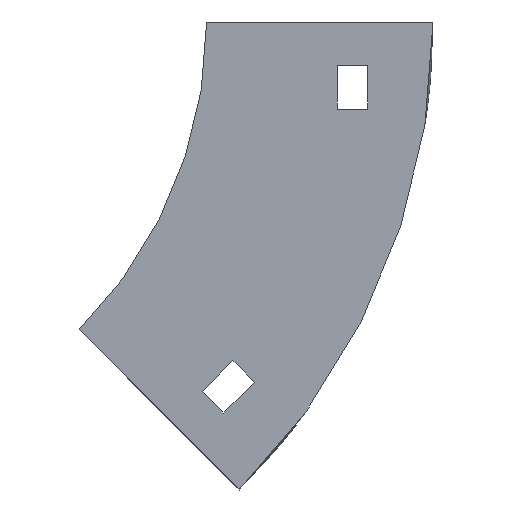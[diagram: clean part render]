
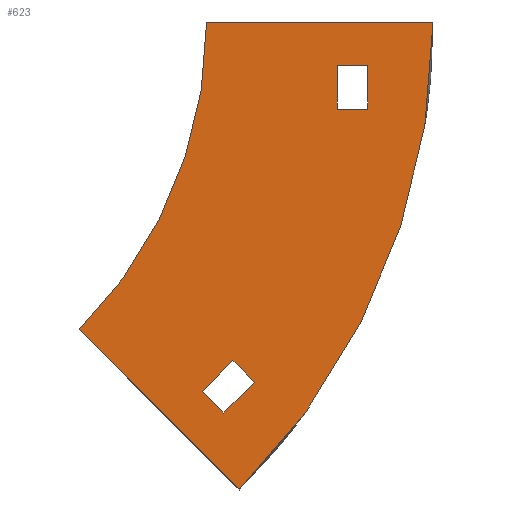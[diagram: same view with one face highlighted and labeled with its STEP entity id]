
A CAD part, left-side view. The second image highlights one B-rep face of the part: STEP entity #623.
In plain terms, the highlighted planar face has unit normal (-1, 0, 0).
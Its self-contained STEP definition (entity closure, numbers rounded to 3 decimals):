
#2 = CARTESIAN_POINT ( 'NONE',  ( -152., 1.005, -84.853 ) ) ;
#6 = LINE ( 'NONE', #536, #37 ) ;
#10 = AXIS2_PLACEMENT_3D ( 'NONE', #786, #561, #102 ) ;
#29 = AXIS2_PLACEMENT_3D ( 'NONE', #857, #329, #54 ) ;
#37 = VECTOR ( 'NONE', #173, 1000. ) ;
#50 = CARTESIAN_POINT ( 'NONE',  ( -152., -52., 0. ) ) ;
#54 = DIRECTION ( 'NONE',  ( 0., 0., -1. ) ) ;
#61 = FACE_OUTER_BOUND ( 'NONE', #1124, .T. ) ;
#70 = VECTOR ( 'NONE', #540, 1000. ) ;
#80 = LINE ( 'NONE', #984, #534 ) ;
#90 = LINE ( 'NONE', #96, #70 ) ;
#94 = ORIENTED_EDGE ( 'NONE', *, *, #503, .T. ) ;
#96 = CARTESIAN_POINT ( 'NONE',  ( -152., -6.066, -77.782 ) ) ;
#102 = DIRECTION ( 'NONE',  ( 0., 0., -1. ) ) ;
#104 = VECTOR ( 'NONE', #311, 1000. ) ;
#116 = LINE ( 'NONE', #827, #104 ) ;
#118 = CARTESIAN_POINT ( 'NONE',  ( -152., -7.48, -107.48 ) ) ;
#169 = CARTESIAN_POINT ( 'NONE',  ( -152., 29.289, -70.711 ) ) ;
#173 = DIRECTION ( 'NONE',  ( 0., 0., -1. ) ) ;
#175 = CARTESIAN_POINT ( 'NONE',  ( -152., 100., 0. ) ) ;
#179 = LINE ( 'NONE', #2, #702 ) ;
#202 = VERTEX_POINT ( 'NONE', #379 ) ;
#211 = EDGE_CURVE ( 'NONE', #337, #763, #528, .T. ) ;
#227 = EDGE_CURVE ( 'NONE', #880, #202, #179, .T. ) ;
#237 = CARTESIAN_POINT ( 'NONE',  ( -152., -30., -10. ) ) ;
#244 = VERTEX_POINT ( 'NONE', #1074 ) ;
#250 = ORIENTED_EDGE ( 'NONE', *, *, #227, .F. ) ;
#251 = CARTESIAN_POINT ( 'NONE',  ( -152., -37., -20. ) ) ;
#276 = CARTESIAN_POINT ( 'NONE',  ( -152., -52., 0. ) ) ;
#280 = EDGE_LOOP ( 'NONE', ( #94, #358, #678, #960 ) ) ;
#286 = ORIENTED_EDGE ( 'NONE', *, *, #576, .F. ) ;
#311 = DIRECTION ( 'NONE',  ( 0., 1., 0. ) ) ;
#313 = DIRECTION ( 'NONE',  ( 0., -1., 0. ) ) ;
#319 = VECTOR ( 'NONE', #460, 1000. ) ;
#329 = DIRECTION ( 'NONE',  ( -1., 0., 0. ) ) ;
#337 = VERTEX_POINT ( 'NONE', #276 ) ;
#355 = DIRECTION ( 'NONE',  ( 0., 0.707, -0.707 ) ) ;
#358 = ORIENTED_EDGE ( 'NONE', *, *, #772, .T. ) ;
#379 = CARTESIAN_POINT ( 'NONE',  ( -152., 1.005, -84.853 ) ) ;
#389 = VERTEX_POINT ( 'NONE', #653 ) ;
#413 = VECTOR ( 'NONE', #861, 1000. ) ;
#421 = EDGE_CURVE ( 'NONE', #889, #553, #116, .T. ) ;
#427 = CARTESIAN_POINT ( 'NONE',  ( -152., -6.066, -77.782 ) ) ;
#430 = CIRCLE ( 'NONE', #29, 100. ) ;
#450 = DIRECTION ( 'NONE',  ( 0., 0., -1. ) ) ;
#460 = DIRECTION ( 'NONE',  ( 0., 0., 1. ) ) ;
#463 = DIRECTION ( 'NONE',  ( 0., 0.707, 0.707 ) ) ;
#480 = CARTESIAN_POINT ( 'NONE',  ( -152., -30., -10. ) ) ;
#494 = EDGE_CURVE ( 'NONE', #586, #923, #430, .T. ) ;
#503 = EDGE_CURVE ( 'NONE', #553, #389, #1122, .T. ) ;
#517 = LINE ( 'NONE', #955, #413 ) ;
#523 = ORIENTED_EDGE ( 'NONE', *, *, #1002, .F. ) ;
#528 = CIRCLE ( 'NONE', #10, 152. ) ;
#534 = VECTOR ( 'NONE', #784, 1000. ) ;
#536 = CARTESIAN_POINT ( 'NONE',  ( -152., -37., -10. ) ) ;
#540 = DIRECTION ( 'NONE',  ( 0., 0.707, 0.707 ) ) ;
#542 = FACE_BOUND ( 'NONE', #564, .T. ) ;
#553 = VERTEX_POINT ( 'NONE', #926 ) ;
#561 = DIRECTION ( 'NONE',  ( 1., 0., 0. ) ) ;
#564 = EDGE_LOOP ( 'NONE', ( #839, #250, #1064, #523 ) ) ;
#576 = EDGE_CURVE ( 'NONE', #923, #337, #750, .T. ) ;
#586 = VERTEX_POINT ( 'NONE', #169 ) ;
#611 = EDGE_CURVE ( 'NONE', #202, #1078, #517, .T. ) ;
#613 = VECTOR ( 'NONE', #1102, 1000. ) ;
#623 = ADVANCED_FACE ( 'NONE', ( #61, #1133, #542 ), #706, .F. ) ;
#634 = CARTESIAN_POINT ( 'NONE',  ( -152., -3.945, -89.803 ) ) ;
#641 = ORIENTED_EDGE ( 'NONE', *, *, #494, .F. ) ;
#653 = CARTESIAN_POINT ( 'NONE',  ( -152., -30., -10. ) ) ;
#656 = LINE ( 'NONE', #480, #971 ) ;
#657 = VERTEX_POINT ( 'NONE', #722 ) ;
#658 = VECTOR ( 'NONE', #463, 1000. ) ;
#678 = ORIENTED_EDGE ( 'NONE', *, *, #1068, .T. ) ;
#702 = VECTOR ( 'NONE', #355, 1000. ) ;
#706 = PLANE ( 'NONE',  #740 ) ;
#722 = CARTESIAN_POINT ( 'NONE',  ( -152., -11.016, -82.731 ) ) ;
#740 = AXIS2_PLACEMENT_3D ( 'NONE', #175, #1059, #450 ) ;
#748 = ORIENTED_EDGE ( 'NONE', *, *, #1135, .F. ) ;
#750 = LINE ( 'NONE', #50, #613 ) ;
#763 = VERTEX_POINT ( 'NONE', #118 ) ;
#772 = EDGE_CURVE ( 'NONE', #389, #244, #656, .T. ) ;
#784 = DIRECTION ( 'NONE',  ( 0., -0.707, 0.707 ) ) ;
#786 = CARTESIAN_POINT ( 'NONE',  ( -152., 100., 0. ) ) ;
#827 = CARTESIAN_POINT ( 'NONE',  ( -152., -30., -20. ) ) ;
#839 = ORIENTED_EDGE ( 'NONE', *, *, #611, .F. ) ;
#857 = CARTESIAN_POINT ( 'NONE',  ( -152., 100., 0. ) ) ;
#861 = DIRECTION ( 'NONE',  ( 0., -0.707, -0.707 ) ) ;
#871 = CARTESIAN_POINT ( 'NONE',  ( -152., 0., 0. ) ) ;
#880 = VERTEX_POINT ( 'NONE', #427 ) ;
#889 = VERTEX_POINT ( 'NONE', #251 ) ;
#923 = VERTEX_POINT ( 'NONE', #871 ) ;
#926 = CARTESIAN_POINT ( 'NONE',  ( -152., -30., -20. ) ) ;
#955 = CARTESIAN_POINT ( 'NONE',  ( -152., 1.005, -84.853 ) ) ;
#956 = ORIENTED_EDGE ( 'NONE', *, *, #211, .F. ) ;
#960 = ORIENTED_EDGE ( 'NONE', *, *, #421, .T. ) ;
#971 = VECTOR ( 'NONE', #313, 1000. ) ;
#984 = CARTESIAN_POINT ( 'NONE',  ( -152., -3.945, -89.803 ) ) ;
#1002 = EDGE_CURVE ( 'NONE', #1078, #657, #80, .T. ) ;
#1011 = CARTESIAN_POINT ( 'NONE',  ( -152., 29.289, -70.711 ) ) ;
#1059 = DIRECTION ( 'NONE',  ( 1., 0., 0. ) ) ;
#1064 = ORIENTED_EDGE ( 'NONE', *, *, #1103, .F. ) ;
#1068 = EDGE_CURVE ( 'NONE', #244, #889, #6, .T. ) ;
#1074 = CARTESIAN_POINT ( 'NONE',  ( -152., -37., -10. ) ) ;
#1078 = VERTEX_POINT ( 'NONE', #634 ) ;
#1090 = LINE ( 'NONE', #1011, #658 ) ;
#1102 = DIRECTION ( 'NONE',  ( 0., -1., 0. ) ) ;
#1103 = EDGE_CURVE ( 'NONE', #657, #880, #90, .T. ) ;
#1122 = LINE ( 'NONE', #237, #319 ) ;
#1124 = EDGE_LOOP ( 'NONE', ( #641, #748, #956, #286 ) ) ;
#1133 = FACE_BOUND ( 'NONE', #280, .T. ) ;
#1135 = EDGE_CURVE ( 'NONE', #763, #586, #1090, .T. ) ;
